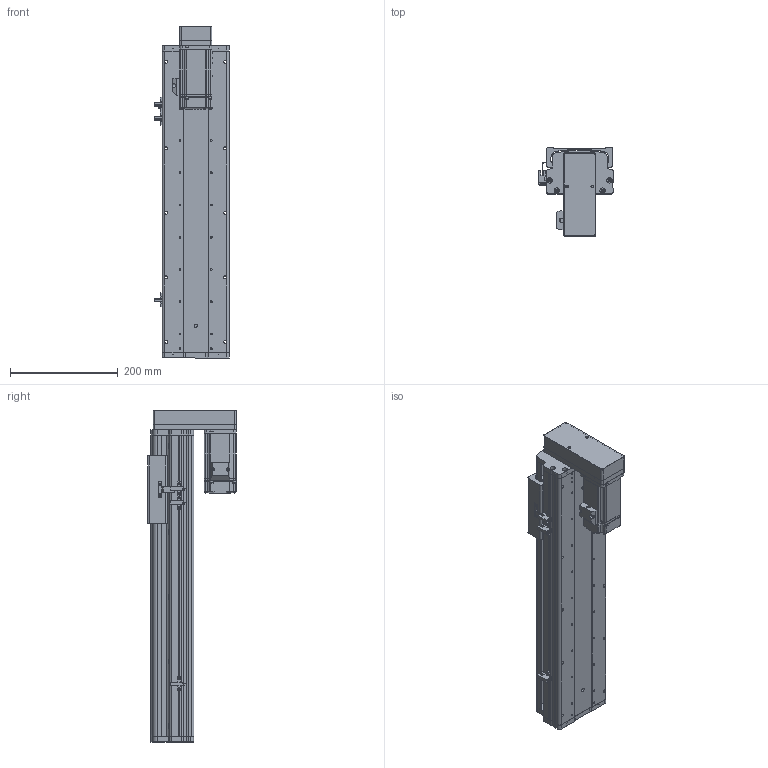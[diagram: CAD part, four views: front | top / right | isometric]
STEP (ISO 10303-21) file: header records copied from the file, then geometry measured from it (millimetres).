
FILE_DESCRIPTION (( 'STEP AP214' ), '1' );
FILE_NAME ('KSD125S-S350-MD-CM.STEP', '2017-10-21T08:00:05', ( '微软用户' ), ( '微软中国' ), 'SwSTEP 2.0', 'SolidWorks 2014', '' );
FILE_SCHEMA (( 'AUTOMOTIVE_DESIGN' ));
Length unit declared in the file: millimetre
Products named in the file (16): MHMD042G1CA_2_03; 拸萇儂釱滅袉菜; 拸萇儂釱滅袉菜-1; 覜茼え68遵圉猾敕; U倰嫖萇假蚾璃; U倰嫖萇EEㄜSX672; ヶ傷啣-125遵耀郪; KSD125-賑雄釱1; 125-帣傷啣1; KSD125S-S350-MD-CM; 125宽马达安装板连板上下折丝杆同步带; 125遵悵誘欶奻狟殏; HTPA30S3M150_A_H6_a佪裝蚚; HTPA30S3M150_A_H6_a萇儂蚚; KSD125S-350俴最佪裝滅鳥裔; KSD125S-350俴最佪裝菁啣
Assembly tree (19 placements, depth 2):
  KSD125S-S350-MD-CM
    125-帣傷啣1
    KSD125-賑雄釱1
    ヶ傷啣-125遵耀郪
    U倰嫖萇EEㄜSX672  x3
    U倰嫖萇假蚾璃  x3
    覜茼え68遵圉猾敕
    拸萇儂釱滅袉菜-1
    拸萇儂釱滅袉菜
    MHMD042G1CA_2_03
    KSD125S-350俴最佪裝菁啣
    KSD125S-350俴最佪裝滅鳥裔
    HTPA30S3M150_A_H6_a萇儂蚚
    HTPA30S3M150_A_H6_a佪裝蚚
    125遵悵誘欶奻狟殏
    125宽马达安装板连板上下折丝杆同步带
Bounding box: 138.7 x 165 x 617.5 mm (x, y, z)
Volume: 2215795.8 mm3; surface area: 777054.9 mm2
Topology: 18 solids, 21 shells, 2165 faces, 6273 edges, 4137 vertices
Faces by surface type: cylinder 1346, plane 678, cone 119, bspline 22
Entity records: 77357 total; most frequent: CARTESIAN_POINT 15499, DIRECTION 11887, ORIENTED_EDGE 11054, EDGE_CURVE 5605, AXIS2_PLACEMENT_3D 4587, VERTEX_POINT 3729, LINE 2713, VECTOR 2713
